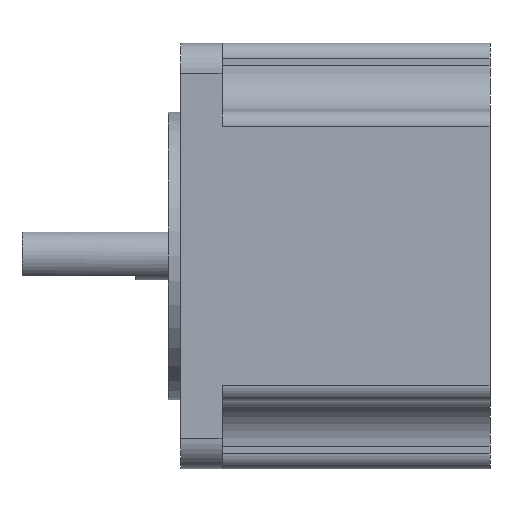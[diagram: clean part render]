
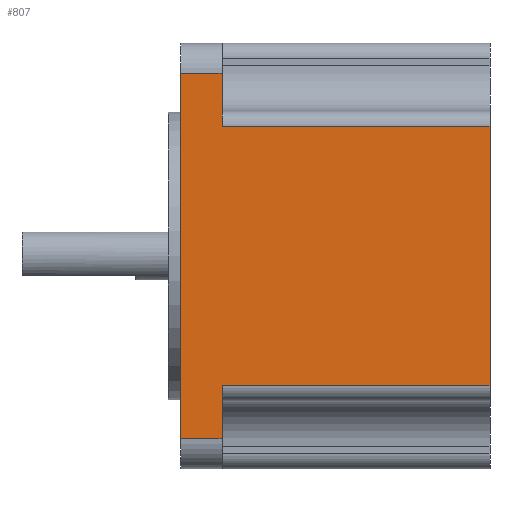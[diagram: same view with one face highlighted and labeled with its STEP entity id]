
A CAD part, left-side view. The second image highlights one B-rep face of the part: STEP entity #807.
In plain terms, the highlighted planar face has unit normal (-1, 0, 0).
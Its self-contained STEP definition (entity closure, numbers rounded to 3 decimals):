
#788 = VERTEX_POINT ( 'NONE', #1465 ) ;
#800 = ORIENTED_EDGE ( 'NONE', *, *, #884, .F. ) ;
#801 = VERTEX_POINT ( 'NONE', #1501 ) ;
#802 = EDGE_CURVE ( 'NONE', #899, #893, #1500, .T. ) ;
#803 = EDGE_CURVE ( 'NONE', #788, #893, #1493, .T. ) ;
#804 = EDGE_CURVE ( 'NONE', #899, #896, #1473, .T. ) ;
#805 = ORIENTED_EDGE ( 'NONE', *, *, #892, .T. ) ;
#806 = ORIENTED_EDGE ( 'NONE', *, *, #804, .T. ) ;
#807 = ADVANCED_FACE ( 'NONE', ( #1439 ), #1438, .F. ) ;
#808 = EDGE_LOOP ( 'NONE', ( #800, #823, #897, #806, #811, #805, #817, #819 ) ) ;
#811 = ORIENTED_EDGE ( 'NONE', *, *, #814, .T. ) ;
#814 = EDGE_CURVE ( 'NONE', #896, #822, #1528, .T. ) ;
#817 = ORIENTED_EDGE ( 'NONE', *, *, #818, .F. ) ;
#818 = EDGE_CURVE ( 'NONE', #801, #898, #1524, .T. ) ;
#819 = ORIENTED_EDGE ( 'NONE', *, *, #820, .T. ) ;
#820 = EDGE_CURVE ( 'NONE', #801, #920, #1530, .T. ) ;
#822 = VERTEX_POINT ( 'NONE', #1519 ) ;
#823 = ORIENTED_EDGE ( 'NONE', *, *, #803, .T. ) ;
#884 = EDGE_CURVE ( 'NONE', #788, #920, #1635, .T. ) ;
#892 = EDGE_CURVE ( 'NONE', #822, #898, #1618, .T. ) ;
#893 = VERTEX_POINT ( 'NONE', #1656 ) ;
#896 = VERTEX_POINT ( 'NONE', #1684 ) ;
#897 = ORIENTED_EDGE ( 'NONE', *, *, #802, .F. ) ;
#898 = VERTEX_POINT ( 'NONE', #1717 ) ;
#899 = VERTEX_POINT ( 'NONE', #1683 ) ;
#920 = VERTEX_POINT ( 'NONE', #1706 ) ;
#1326 = DIRECTION ( 'NONE',  ( 0., 0., -1. ) ) ;
#1434 = DIRECTION ( 'NONE',  ( 1., 0., 0. ) ) ;
#1435 = AXIS2_PLACEMENT_3D ( 'NONE', #1437, #1434, #1326 ) ;
#1437 = CARTESIAN_POINT ( 'NONE',  ( 0., 41., 0. ) ) ;
#1438 = PLANE ( 'NONE',  #1435 ) ;
#1439 = FACE_OUTER_BOUND ( 'NONE', #808, .T. ) ;
#1465 = CARTESIAN_POINT ( 'NONE',  ( 0., 41., -52.4 ) ) ;
#1470 = DIRECTION ( 'NONE',  ( 0., -1., 0. ) ) ;
#1471 = VECTOR ( 'NONE', #1470, 1000. ) ;
#1472 = CARTESIAN_POINT ( 'NONE',  ( 0., 41., -45.4 ) ) ;
#1473 = LINE ( 'NONE', #1472, #1471 ) ;
#1474 = DIRECTION ( 'NONE',  ( 0., -1., 0. ) ) ;
#1475 = VECTOR ( 'NONE', #1474, 1000. ) ;
#1492 = CARTESIAN_POINT ( 'NONE',  ( 0., 41., -52.4 ) ) ;
#1493 = LINE ( 'NONE', #1492, #1475 ) ;
#1494 = DIRECTION ( 'NONE',  ( 0., 0., -1. ) ) ;
#1495 = VECTOR ( 'NONE', #1494, 1000. ) ;
#1496 = CARTESIAN_POINT ( 'NONE',  ( 0., 35.5, -56.4 ) ) ;
#1500 = LINE ( 'NONE', #1496, #1495 ) ;
#1501 = CARTESIAN_POINT ( 'NONE',  ( 0., 35.5, -4. ) ) ;
#1512 = DIRECTION ( 'NONE',  ( 0., 0., 1. ) ) ;
#1513 = VECTOR ( 'NONE', #1512, 1000. ) ;
#1519 = CARTESIAN_POINT ( 'NONE',  ( 0., 0., -11. ) ) ;
#1520 = DIRECTION ( 'NONE',  ( 0., 1., 0. ) ) ;
#1521 = VECTOR ( 'NONE', #1520, 1000. ) ;
#1523 = CARTESIAN_POINT ( 'NONE',  ( 0., 35.5, 0. ) ) ;
#1524 = LINE ( 'NONE', #1523, #1525 ) ;
#1525 = VECTOR ( 'NONE', #1526, 1000. ) ;
#1526 = DIRECTION ( 'NONE',  ( 0., 0., -1. ) ) ;
#1527 = CARTESIAN_POINT ( 'NONE',  ( 0., 0., 0. ) ) ;
#1528 = LINE ( 'NONE', #1527, #1513 ) ;
#1529 = CARTESIAN_POINT ( 'NONE',  ( 0., 41., -4. ) ) ;
#1530 = LINE ( 'NONE', #1529, #1521 ) ;
#1615 = DIRECTION ( 'NONE',  ( 0., 1., 0. ) ) ;
#1616 = VECTOR ( 'NONE', #1615, 1000. ) ;
#1617 = CARTESIAN_POINT ( 'NONE',  ( 0., 41., -11. ) ) ;
#1618 = LINE ( 'NONE', #1617, #1616 ) ;
#1635 = LINE ( 'NONE', #1643, #1642 ) ;
#1642 = VECTOR ( 'NONE', #1660, 1000. ) ;
#1643 = CARTESIAN_POINT ( 'NONE',  ( 0., 41., 0. ) ) ;
#1656 = CARTESIAN_POINT ( 'NONE',  ( 0., 35.5, -52.4 ) ) ;
#1660 = DIRECTION ( 'NONE',  ( 0., 0., 1. ) ) ;
#1683 = CARTESIAN_POINT ( 'NONE',  ( 0., 35.5, -45.4 ) ) ;
#1684 = CARTESIAN_POINT ( 'NONE',  ( 0., 0., -45.4 ) ) ;
#1706 = CARTESIAN_POINT ( 'NONE',  ( 0., 41., -4. ) ) ;
#1717 = CARTESIAN_POINT ( 'NONE',  ( 0., 35.5, -11. ) ) ;
